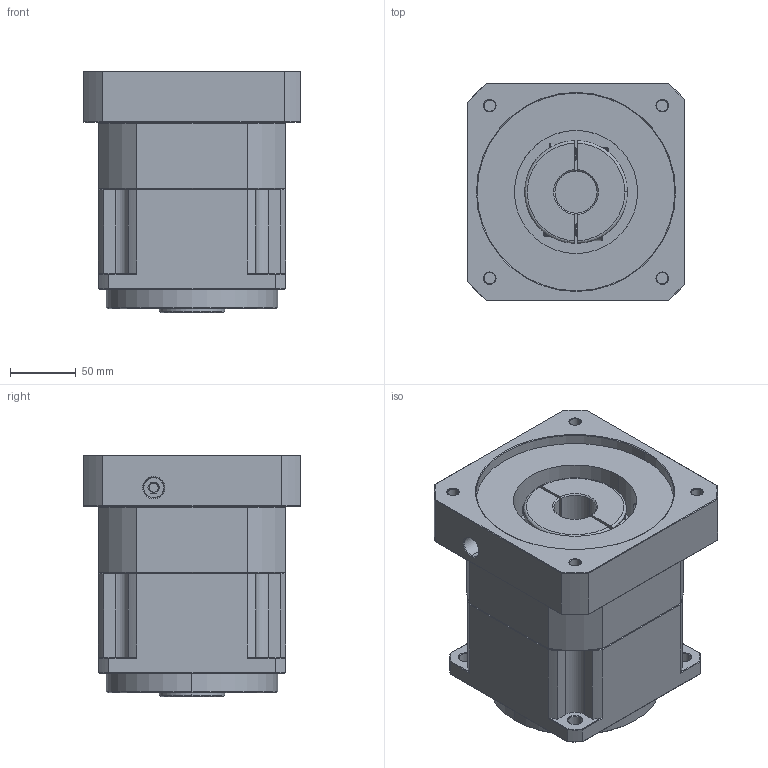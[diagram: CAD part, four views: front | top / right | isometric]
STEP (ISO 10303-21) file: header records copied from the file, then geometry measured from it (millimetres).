
FILE_DESCRIPTION (( 'STEP AP214' ), '1' );
FILE_NAME ('ZPB142-K35-L1-P1-32-150-185-M10.step', '2024-07-05T00:09:34', ( 'Windows 蚚誧' ), ( 'Organization' ), 'SwSTEP 2.0', 'SolidWorks 2016', '' );
FILE_SCHEMA (( 'AUTOMOTIVE_DESIGN' ));
Length unit declared in the file: millimetre
Products named in the file (1): ZPB142-K35-L1-P1-32-150-185-M10
Bounding box: 165 x 165 x 183.5 mm (x, y, z)
Surface area: 207814.8 mm2 (no closed solid volume)
Topology: 0 solids, 36 shells, 1749 faces, 4667 edges, 2994 vertices
Faces by surface type: plane 906, bspline 376, cone 257, cylinder 210
Entity records: 86350 total; most frequent: CARTESIAN_POINT 37611, ORIENTED_EDGE 9330, DIRECTION 7169, EDGE_CURVE 4667, LINE 3121, VECTOR 3121, VERTEX_POINT 2994, AXIS2_PLACEMENT_3D 2024
